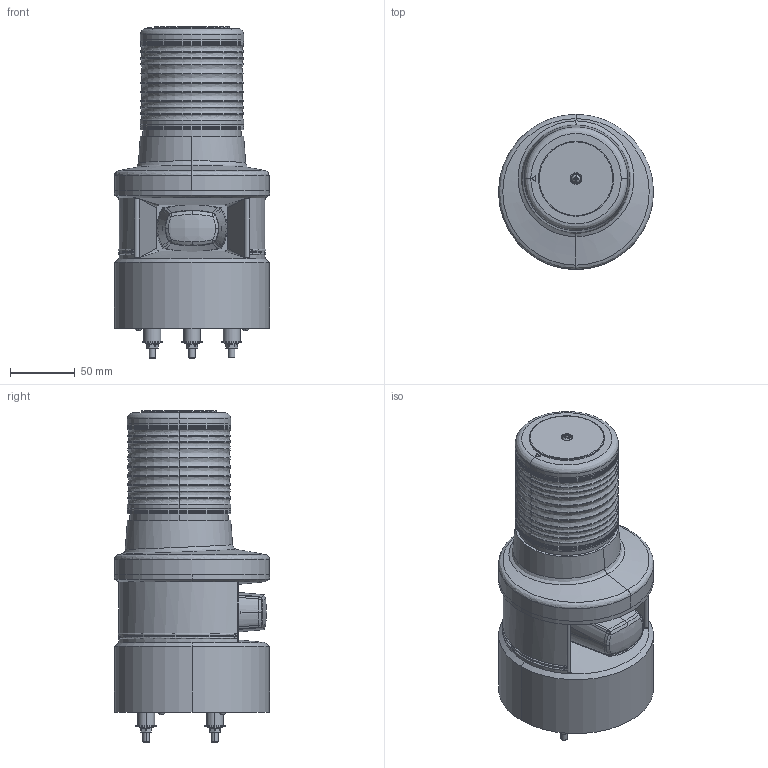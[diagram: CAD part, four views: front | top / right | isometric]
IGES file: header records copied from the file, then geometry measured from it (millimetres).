
Start section: IGES file generated by C3D Converter 1.6 translator by C3D Labs., translator version IGESOUT-5.1.
Global section: file name: C:\Users\Ìîíî\OneDrive\Desktop\øòóêè\Êóëåð TFL100B\TLF100B-R.igs; preprocessor: 1.0; author: Ìîíî; organization: unknown; date: -17760631:212221; units: millimetre
Bounding box: 120 x 120 x 256.95 mm (x, y, z)
Volume: 1475213.5 mm3; surface area: 188877.6 mm2
Topology: 29 solids, 29 shells, 738 faces, 1733 edges, 1065 vertices
Faces by surface type: revolution 386, bspline 348, extrusion 4
